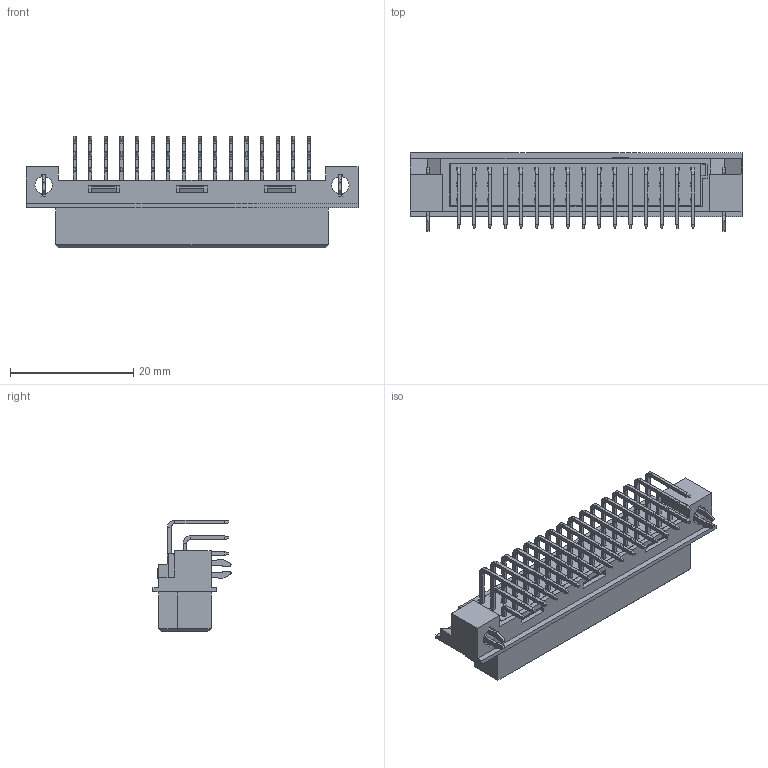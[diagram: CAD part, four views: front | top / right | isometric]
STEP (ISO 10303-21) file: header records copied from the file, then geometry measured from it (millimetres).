
FILE_DESCRIPTION (( 'STEP AP203' ), '1' );
FILE_NAME ('9001-18481c00a-9-11.STEP', '2018-09-11T01:25:38', ( '' ), ( '' ), 'SwSTEP 2.0', 'SolidWorks 2011', '' );
FILE_SCHEMA (( 'CONFIG_CONTROL_DESIGN' ));
Length unit declared in the file: millimetre
Products named in the file (1): 9001-18481c00a-9-11
Bounding box: 53.96 x 12.7 x 18.18 mm (x, y, z)
Surface area: 8396.7 mm2 (no closed solid volume)
Topology: 0 solids, 199 shells, 1803 faces, 6468 edges, 4705 vertices
Faces by surface type: plane 1587, cylinder 216
Entity records: 67235 total; most frequent: CARTESIAN_POINT 13613, DIRECTION 10422, ORIENTED_EDGE 9728, EDGE_CURVE 6468, VECTOR 5826, LINE 5826, VERTEX_POINT 4705, AXIS2_PLACEMENT_3D 2298
